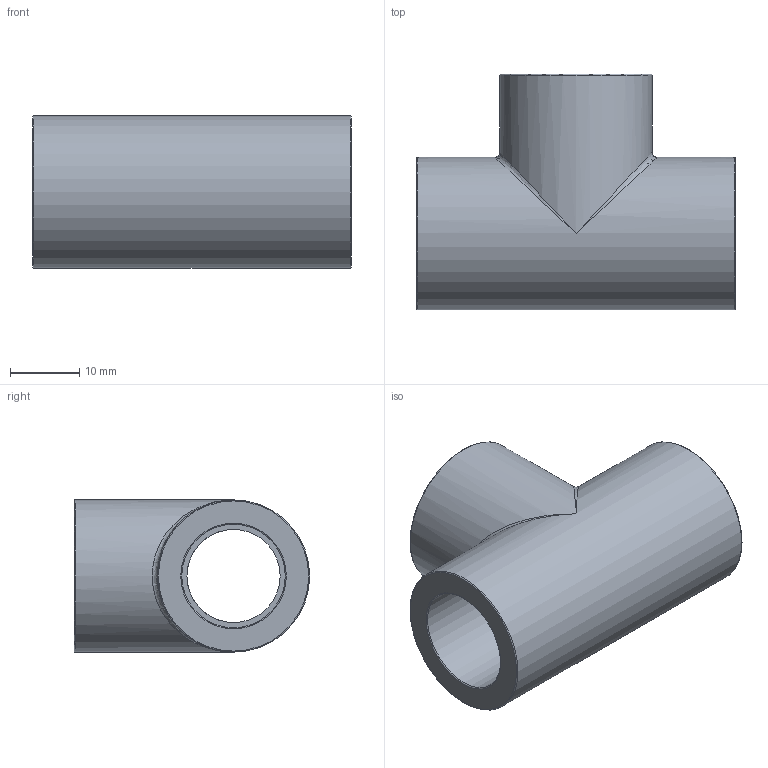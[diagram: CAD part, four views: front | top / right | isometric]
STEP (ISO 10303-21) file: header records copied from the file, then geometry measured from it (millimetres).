
FILE_DESCRIPTION(/* description */ ('PLASSON THREADED TEE PVC 3/8"'),/* implementation_level */ '2;1');
FILE_NAME(/* name */ 'C:\Dropbox\KIMPROJECTS-Inventor\99-16-3568-Processing\PVC Catalog 2017\050401\050401003.ipt.stp',/* time_stamp */ '2017-12-07T15:54:34+02:00',/* author */ ('KIM'),/* organization */ (''),/* preprocessor_version */ 'ST-DEVELOPER v15.6',/* originating_system */ 'Autodesk Inventor 2015',/* authorisation */ '');
FILE_SCHEMA (('AUTOMOTIVE_DESIGN { 1 0 10303 214 3 1 1 }'));
Length unit declared in the file: millimetre
Products named in the file (1): 050401003
Bounding box: 46 x 34 x 22 mm (x, y, z)
Volume: 12382 mm3; surface area: 7224.6 mm2
Topology: 1 solids, 1 shells, 20 faces, 48 edges, 28 vertices
Faces by surface type: cylinder 7, plane 6, torus 5, bspline 2
Full cylindrical faces by diameter (mm): 13.455 x2, 14.95 x3, 22 x2
Entity records: 550 total; most frequent: CARTESIAN_POINT 163, DIRECTION 84, ORIENTED_EDGE 46, AXIS2_PLACEMENT_3D 42, EDGE_LOOP 40, EDGE_CURVE 23, VERTEX_POINT 21, FACE_BOUND 20
